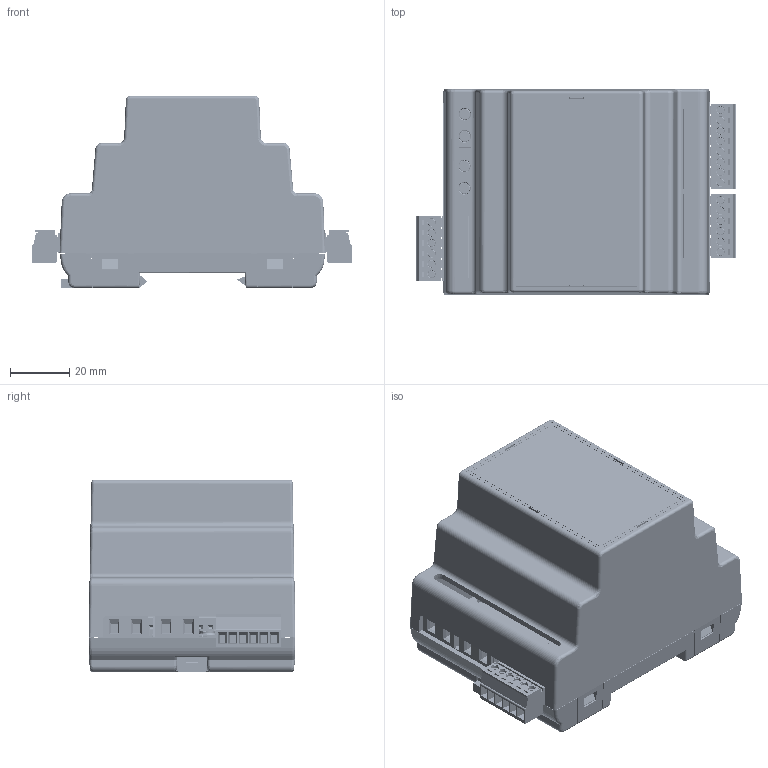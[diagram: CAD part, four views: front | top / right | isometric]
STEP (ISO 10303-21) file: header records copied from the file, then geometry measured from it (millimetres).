
FILE_DESCRIPTION(/* description */ ('','CAx-IF Rec.Pracs.---Representation and Presentation of Product Manufacturing Information (PMI)---3.8---2014-02-18'),/* implementation_level */ '2;1');
FILE_NAME(/* name */ 'C:\Users\user\Desktop\OP-1015 (KW-10m).stp',/* time_stamp */ '2024-09-09T08:47:43+02:00',/* author */ ('user'),/* organization */ (''),/* preprocessor_version */ 'ST-DEVELOPER v16.13',/* originating_system */ 'Autodesk Inventor 2018',/* authorisation */ '');
FILE_SCHEMA (('AP242_MANAGED_MODEL_BASED_3D_ENGINEERING_MIM_LF { 1 0 10303 442 1 1 4 }'));
Products named in the file (65): OP-1015; OP-1015_A; OP-1015-B_1; OP-1015_D; OP-267-D; OP-1015_naklejka-01; S_023.05.000.00058/...061; ST-1007_2_0_K; PCB Component; Board; FIDUCIAL_G10; FIDUCIAL_P10; 15EDGRC-3.5-06P+WTYK; 15EDGRC-3.5-06P-14-00AH v1; 15EDGK-3.5-06P-14-00AH v1; FUSE_1808; SMB_A; SOT23; 15EDGRC-3.5-08P+WTYK; 15EDGRC-3.5-08P-14-00AH v1; 15EDGK-3.5-08P-14-00AH v1; C0603; R0603; 2X02; SO08; R1206; C1206; QSG8M; R0805; 1X12; TQFP64_2; C0805K; LTV-354_FALA; SO14; R0805 (1); C0805; SOT23 (1); MINIMELF; DIODE-1206; Pin1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
Assembly tree (153 placements, depth 5):
  OP-1015
    OP-1015_A
    OP-1015-B_1
    OP-1015_D
    OP-267-D
    OP-1015_naklejka-01
    S_023.05.000.00058/...061  x4
    ST-1007_2_0_K
      PCB Component
        Board
        FIDUCIAL_G10  x4
        FIDUCIAL_P10  x4
        15EDGRC-3.5-06P+WTYK  x2
          15EDGRC-3.5-06P-14-00AH v1
          15EDGK-3.5-06P-14-00AH v1
        FUSE_1808
        SMB_A
        SOT23
        15EDGRC-3.5-08P+WTYK
          15EDGRC-3.5-08P-14-00AH v1
          15EDGK-3.5-08P-14-00AH v1
        C0603  x10
        R0603
        2X02
        SO08
        R1206  x4
        C1206
        QSG8M
        R0805  x15
        1X12
        TQFP64_2
        C0805K  x2
        LTV-354_FALA  x2
        SO14
        R0805 (1)  x10
        C0805  x10
        SOT23 (1)  x2
        MINIMELF  x3
        DIODE-1206  x4
          Pin1
          Pin2
          CeramicBody
        R0603 (1)  x6
        C1206 (1)  x8
        TSOT26  x2
        SMA  x2
        SOT23-BEC_V2  x2
        ULO-TB75-128_7.5-02P-4000A  x2
        74404064XXX
          housing
          contact  x2
          spule
          Glue
        NRS6028T___
          housing (1)
          contact (1)  x2
          spule (1)
          Glue (1)
        JQX115F_4  x2
        R1206 (1)  x6
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Bounding box: 108.3 x 70 x 65.06 mm (x, y, z)
Volume: 77532.2 mm3; surface area: 103263.4 mm2
Topology: 223 solids, 243 shells, 13139 faces, 34051 edges, 21822 vertices
Faces by surface type: plane 8269, cylinder 2113, bspline 2013, sphere 438, cone 174, torus 132
Full cylindrical faces by diameter (mm): 0.2 x1, 0.3 x2, 0.406 x59, 0.5 x167, 0.6 x24, 0.65 x3, 0.8 x15, 0.85 x4, 1.016 x12, 1.2 x24, 1.3 x31, 1.36 x6, 1.362 x3, 1.5 x4, 1.7 x6, 1.9 x20, 2 x40, 2.8 x40, 2.9 x4, 3 x4, 4 x6, 4.1 x8
Entity records: 296373 total; most frequent: CARTESIAN_POINT 106657, ORIENTED_EDGE 38026, DIRECTION 34007, EDGE_CURVE 19013, LINE 13535, VECTOR 13535, VERTEX_POINT 12745, AXIS2_PLACEMENT_3D 10462
